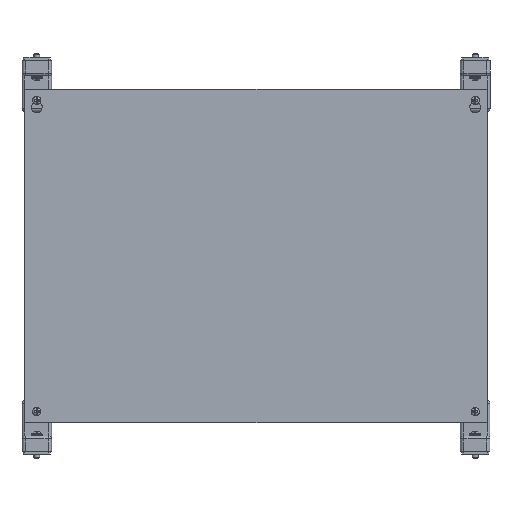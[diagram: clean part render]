
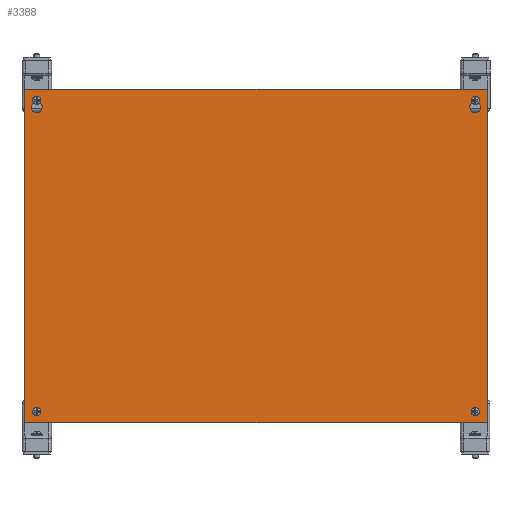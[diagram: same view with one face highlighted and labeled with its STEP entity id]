
A CAD part, front view. The second image highlights one B-rep face of the part: STEP entity #3388.
In plain terms, the highlighted planar face has unit normal (0, -1, 0).
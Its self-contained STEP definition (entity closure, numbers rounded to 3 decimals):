
#744=FACE_BOUND('',#5202,.T.);
#745=FACE_BOUND('',#5203,.T.);
#746=FACE_BOUND('',#5204,.T.);
#747=FACE_BOUND('',#5205,.T.);
#748=FACE_BOUND('',#5206,.T.);
#1733=LINE('',#22614,#2561);
#1740=LINE('',#22637,#2568);
#1742=LINE('',#22640,#2570);
#1744=LINE('',#22645,#2572);
#1751=LINE('',#22669,#2579);
#1753=LINE('',#22672,#2581);
#1755=LINE('',#22675,#2583);
#1757=LINE('',#22678,#2585);
#2561=VECTOR('',#16474,1.);
#2568=VECTOR('',#16495,1.);
#2570=VECTOR('',#16499,1.);
#2572=VECTOR('',#16503,1.);
#2579=VECTOR('',#16524,1.);
#2581=VECTOR('',#16528,1.);
#2583=VECTOR('',#16532,1.);
#2585=VECTOR('',#16536,1.);
#3388=ADVANCED_FACE('',(#744,#745,#746,#747,#748),#3737,.T.);
#3737=PLANE('',#13276);
#5202=EDGE_LOOP('',(#8301,#8302,#8303,#8304));
#5203=EDGE_LOOP('',(#8305,#8306,#8307,#8308));
#5204=EDGE_LOOP('',(#8309,#8310,#8311,#8312));
#5205=EDGE_LOOP('',(#8313));
#5206=EDGE_LOOP('',(#8314));
#8301=ORIENTED_EDGE('',*,*,#11204,.T.);
#8302=ORIENTED_EDGE('',*,*,#11236,.T.);
#8303=ORIENTED_EDGE('',*,*,#11219,.F.);
#8304=ORIENTED_EDGE('',*,*,#11234,.F.);
#8305=ORIENTED_EDGE('',*,*,#11215,.T.);
#8306=ORIENTED_EDGE('',*,*,#11212,.F.);
#8307=ORIENTED_EDGE('',*,*,#11217,.T.);
#8308=ORIENTED_EDGE('',*,*,#11207,.F.);
#8309=ORIENTED_EDGE('',*,*,#11224,.T.);
#8310=ORIENTED_EDGE('',*,*,#11232,.F.);
#8311=ORIENTED_EDGE('',*,*,#11228,.T.);
#8312=ORIENTED_EDGE('',*,*,#11230,.F.);
#8313=ORIENTED_EDGE('',*,*,#11238,.F.);
#8314=ORIENTED_EDGE('',*,*,#11240,.T.);
#9590=VERTEX_POINT('',#22613);
#9591=VERTEX_POINT('',#22615);
#9593=VERTEX_POINT('',#22620);
#9594=VERTEX_POINT('',#22622);
#9598=VERTEX_POINT('',#22631);
#9599=VERTEX_POINT('',#22633);
#9601=VERTEX_POINT('',#22644);
#9602=VERTEX_POINT('',#22646);
#9606=VERTEX_POINT('',#22655);
#9607=VERTEX_POINT('',#22657);
#9610=VERTEX_POINT('',#22664);
#9611=VERTEX_POINT('',#22666);
#9612=VERTEX_POINT('',#22682);
#9614=VERTEX_POINT('',#22687);
#11204=EDGE_CURVE('',#9591,#9590,#1733,.T.);
#11207=EDGE_CURVE('',#9593,#9594,#11994,.T.);
#11212=EDGE_CURVE('',#9598,#9599,#11997,.T.);
#11215=EDGE_CURVE('',#9593,#9599,#1740,.T.);
#11217=EDGE_CURVE('',#9598,#9594,#1742,.T.);
#11219=EDGE_CURVE('',#9601,#9602,#1744,.T.);
#11224=EDGE_CURVE('',#9607,#9606,#11999,.T.);
#11228=EDGE_CURVE('',#9611,#9610,#12001,.T.);
#11230=EDGE_CURVE('',#9607,#9610,#1751,.T.);
#11232=EDGE_CURVE('',#9611,#9606,#1753,.T.);
#11234=EDGE_CURVE('',#9591,#9601,#1755,.T.);
#11236=EDGE_CURVE('',#9590,#9602,#1757,.T.);
#11238=EDGE_CURVE('',#9612,#9612,#12002,.T.);
#11240=EDGE_CURVE('',#9614,#9614,#12004,.T.);
#11994=CIRCLE('',#13250,2.15);
#11997=CIRCLE('',#13254,4.75);
#11999=CIRCLE('',#13260,2.15);
#12001=CIRCLE('',#13263,4.75);
#12002=CIRCLE('',#13269,2.15);
#12004=CIRCLE('',#13272,2.15);
#13250=AXIS2_PLACEMENT_3D('',#22621,#16479,#16480);
#13254=AXIS2_PLACEMENT_3D('',#22632,#16489,#16490);
#13260=AXIS2_PLACEMENT_3D('',#22656,#16511,#16512);
#13263=AXIS2_PLACEMENT_3D('',#22665,#16519,#16520);
#13269=AXIS2_PLACEMENT_3D('',#22681,#16540,#16541);
#13272=AXIS2_PLACEMENT_3D('',#22686,#16546,#16547);
#13276=AXIS2_PLACEMENT_3D('',#22692,#16554,#16555);
#16474=DIRECTION('',(0.,0.,1.));
#16479=DIRECTION('',(0.,-1.,0.));
#16480=DIRECTION('',(1.,0.,0.));
#16489=DIRECTION('',(0.,-1.,0.));
#16490=DIRECTION('',(1.,0.,0.));
#16495=DIRECTION('',(0.,0.,-1.));
#16499=DIRECTION('',(0.,0.,1.));
#16503=DIRECTION('',(0.,0.,1.));
#16511=DIRECTION('',(0.,1.,0.));
#16512=DIRECTION('',(-1.,0.,0.));
#16519=DIRECTION('',(0.,1.,0.));
#16520=DIRECTION('',(-1.,0.,0.));
#16524=DIRECTION('',(0.,0.,-1.));
#16528=DIRECTION('',(0.,0.,1.));
#16532=DIRECTION('',(-1.,0.,0.));
#16536=DIRECTION('',(-1.,0.,0.));
#16540=DIRECTION('',(0.,-1.,0.));
#16541=DIRECTION('',(1.,0.,0.));
#16546=DIRECTION('',(0.,1.,0.));
#16547=DIRECTION('',(-1.,0.,0.));
#16554=DIRECTION('',(0.,-1.,0.));
#16555=DIRECTION('',(-1.,0.,0.));
#22613=CARTESIAN_POINT('',(0.,-146.,146.));
#22614=CARTESIAN_POINT('',(0.,-146.,-148.));
#22615=CARTESIAN_POINT('',(0.,-146.,-148.));
#22620=CARTESIAN_POINT('',(-8.35,-146.,136.));
#22621=CARTESIAN_POINT('',(-10.5,-146.,136.));
#22622=CARTESIAN_POINT('',(-12.65,-146.,136.));
#22631=CARTESIAN_POINT('',(-12.65,-146.,134.236));
#22632=CARTESIAN_POINT('',(-10.5,-146.,130.));
#22633=CARTESIAN_POINT('',(-8.35,-146.,134.236));
#22637=CARTESIAN_POINT('',(-8.35,-146.,136.));
#22640=CARTESIAN_POINT('',(-12.65,-146.,134.236));
#22644=CARTESIAN_POINT('',(-407.,-146.,-148.));
#22645=CARTESIAN_POINT('',(-407.,-146.,-148.));
#22646=CARTESIAN_POINT('',(-407.,-146.,146.));
#22655=CARTESIAN_POINT('',(-394.35,-146.,136.));
#22656=CARTESIAN_POINT('',(-396.5,-146.,136.));
#22657=CARTESIAN_POINT('',(-398.65,-146.,136.));
#22664=CARTESIAN_POINT('',(-398.65,-146.,134.236));
#22665=CARTESIAN_POINT('',(-396.5,-146.,130.));
#22666=CARTESIAN_POINT('',(-394.35,-146.,134.236));
#22669=CARTESIAN_POINT('',(-398.65,-146.,136.));
#22672=CARTESIAN_POINT('',(-394.35,-146.,134.236));
#22675=CARTESIAN_POINT('',(0.,-146.,-148.));
#22678=CARTESIAN_POINT('',(0.,-146.,146.));
#22681=CARTESIAN_POINT('',(-10.5,-146.,-138.));
#22682=CARTESIAN_POINT('',(-8.35,-146.,-138.));
#22686=CARTESIAN_POINT('',(-396.5,-146.,-138.));
#22687=CARTESIAN_POINT('',(-398.65,-146.,-138.));
#22692=CARTESIAN_POINT('',(-407.,-146.,-148.));
